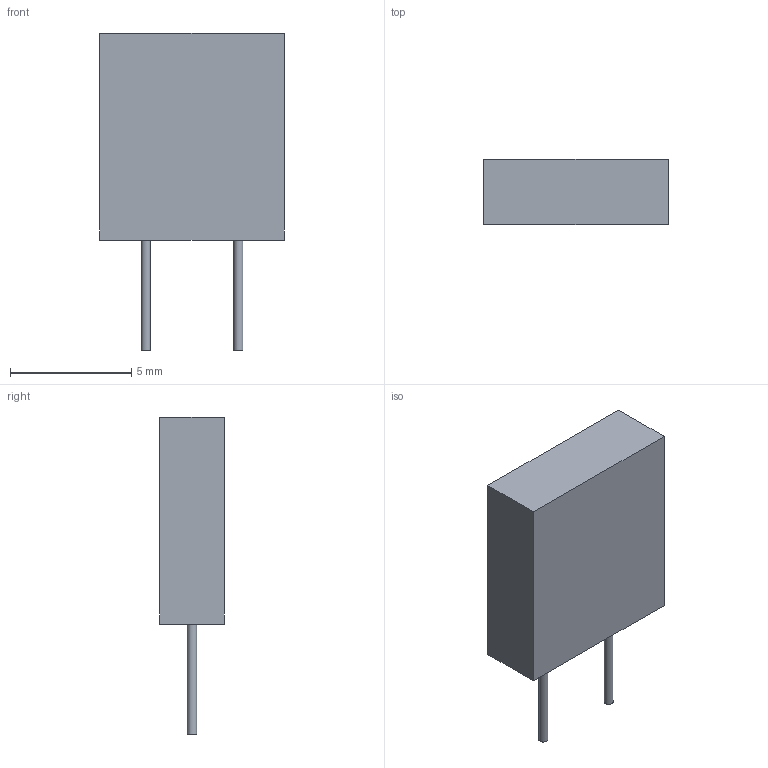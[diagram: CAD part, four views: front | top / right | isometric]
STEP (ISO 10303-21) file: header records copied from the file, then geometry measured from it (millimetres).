
FILE_DESCRIPTION(('STEP AP214'),'1');
FILE_NAME('RES_S102K_7P62X2P67_VIS','2026-05-07T08:58:07',(''),(''),'','','');
FILE_SCHEMA(('AUTOMOTIVE_DESIGN'));
Length unit declared in the file: millimetre
Products named in the file (1): product
Bounding box: 7.62 x 2.67 x 13.11 mm (x, y, z)
Volume: 174.5 mm3; surface area: 227.7 mm2
Topology: 3 solids, 3 shells, 12 faces, 18 edges, 12 vertices
Faces by surface type: plane 10, cylinder 2
Full cylindrical faces by diameter (mm): 0.381 x2
Entity records: 437 total; most frequent: DIRECTION 50, ORIENTED_EDGE 32, CARTESIAN_POINT 31, AXIS2_PLACEMENT_3D 19, PRESENTATION_STYLE_ASSIGNMENT 18, SURFACE_STYLE_USAGE 18, SURFACE_SIDE_STYLE 18, SURFACE_STYLE_FILL_AREA 18
